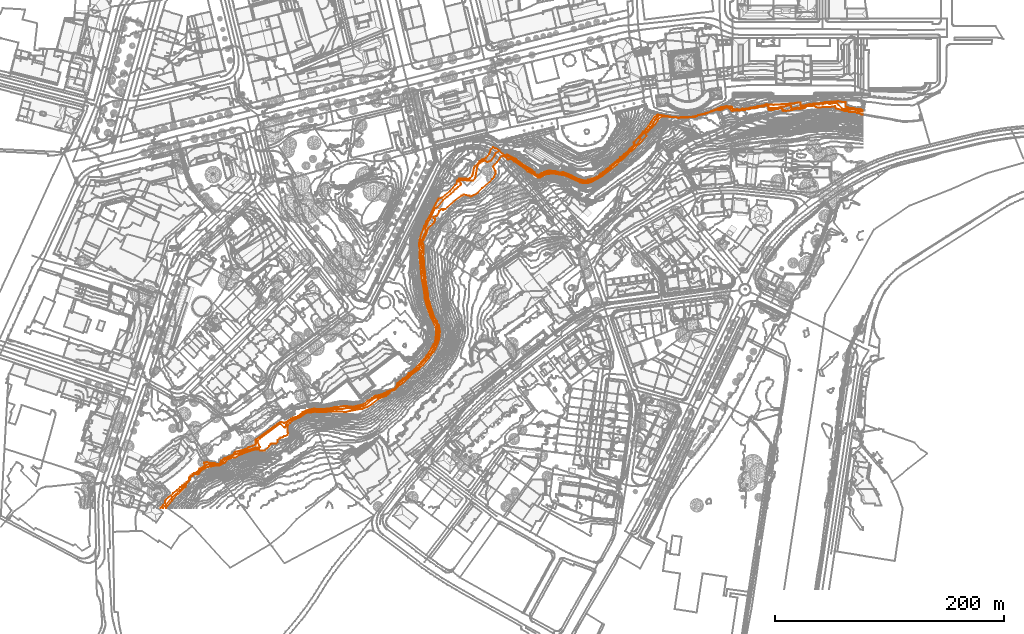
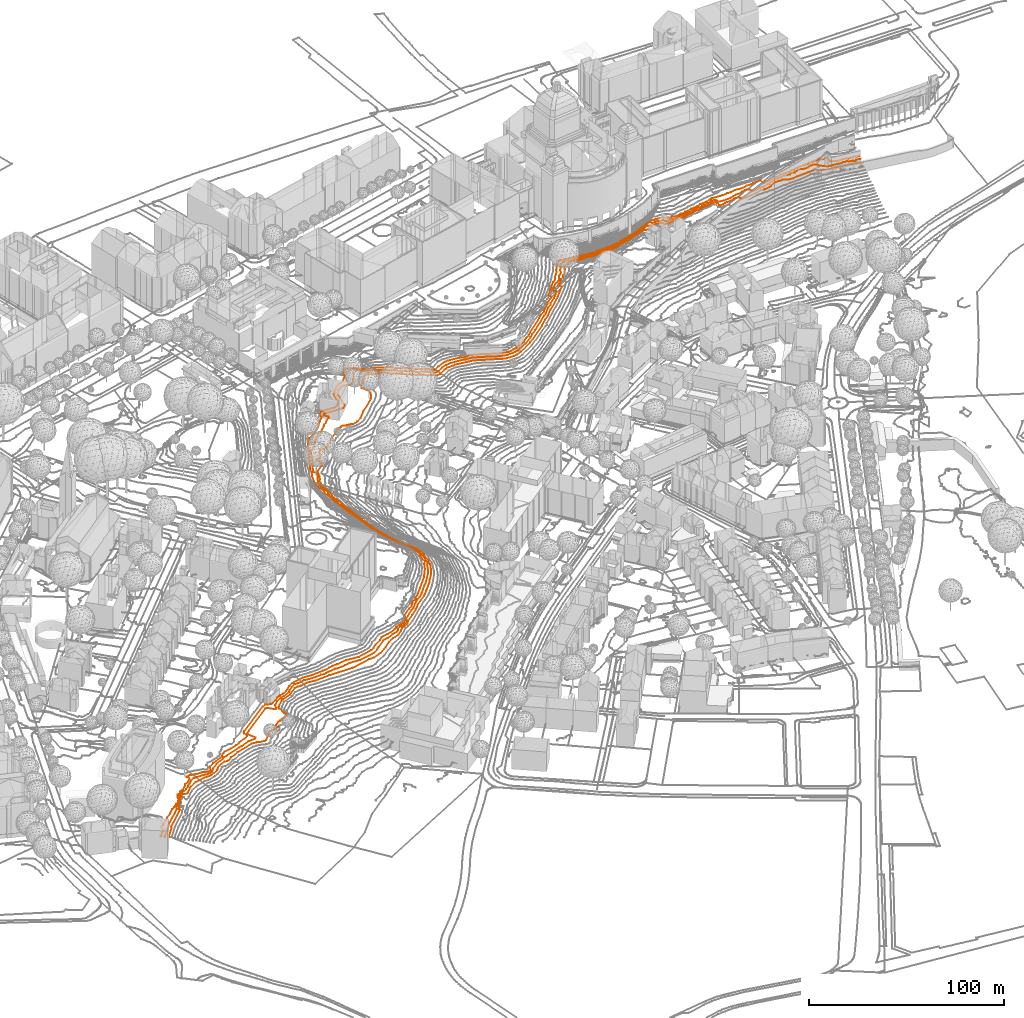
# Not in any storey, part 155 of 477: 3 geographic elements.
"""IFC4 model written with IfcOpenShell, lengths in metres."""

from ifc_helpers import new_model, entity, si_unit, frame, origin_with_axes, place, context, subcontext, project, spatial, element, save


model = new_model("IFC4")

# Units and contexts
model_context = context("Model", 3, precision=1e-05, world=origin_with_axes())
body_context = subcontext(model_context, "Body", "Model", "MODEL_VIEW")
ifc_project = project(units=[si_unit("AREAUNIT", "SQUARE_METRE"), si_unit("LENGTHUNIT", "METRE")], contexts=[model_context])

# Sites
site_1_placement = place(None, origin_with_axes())
site_1 = spatial("IfcSite", under=ifc_project, at=site_1_placement, Name="Topoexport Site")
site_2_placement = place(site_1_placement, origin_with_axes())
site_2 = spatial("IfcSite", under=site_1, at=site_2_placement, Name="TPX_CONTOUR_LINES")

# Geographic elements
geographic_element_1_placement = place(site_2_placement, frame((78.4154227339, -1.3292839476, 524.0), z_axis=(0.0, 0.0, 1.0), x_axis=(1.0, 0.0, 0.0)))
element("IfcGeographicElement", 1, at=geographic_element_1_placement, inside=site_2, Name="Contour Line 524.0 m", PredefinedType="NOTDEFINED", context=body_context, shape_type="GeometricCurveSet", body=[
    entity("IfcGeometricCurveSet", [entity("IfcIndexedPolyCurve", entity("IfcCartesianPointList3D", [[609.7623092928, 344.286234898, 0.0], [608.2623092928, 344.2246892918, 0.0], [607.2623092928, 344.9590182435, 0.0], [606.2623092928, 345.2153256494, 0.0], [604.2623092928, 345.2320320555, 0.0], [603.2623092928, 346.1159915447, 0.0], [597.2623092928, 346.2305726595, 0.0], [596.2623092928, 347.1189957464, 0.0], [593.2623092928, 347.2197717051, 0.0], [588.2623092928, 348.9337588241, 0.0], [586.2623092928, 349.1539193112, 0.0], [585.7941982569, 349.5, 0.0], [585.2623092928, 351.5100186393, 0.0], [581.2623092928, 350.8499732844, 0.0], [574.2623092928, 350.6660930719, 0.0], [571.2623092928, 350.182030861, 0.0], [568.4652279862, 350.5, 0.0], [566.2623092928, 351.8584292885, 0.0], [565.2623092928, 351.6362995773, 0.0], [562.2623092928, 351.7382369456, 0.0], [560.831351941, 351.5, 0.0], [558.2623092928, 349.8761570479, 0.0], [554.2623092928, 348.8389417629, 0.0], [552.2623092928, 349.3170882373, 0.0], [548.2623092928, 348.3243764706, 0.0], [542.2623092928, 347.2999059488, 0.0], [541.2623092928, 347.6364945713, 0.0], [540.2623092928, 347.3253578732, 0.0], [539.1094185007, 347.5, 0.0], [539.6221059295, 348.5, 0.0], [538.4832491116, 349.5, 0.0], [537.2623092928, 349.6359676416, 0.0], [536.2623092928, 349.622808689, 0.0], [535.2623092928, 348.9714051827, 0.0], [531.2623092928, 348.686547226, 0.0], [530.2623092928, 348.2478624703, 0.0], [527.2623092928, 347.8732684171, 0.0], [526.8819181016, 348.5, 0.0], [526.8253004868, 350.5, 0.0], [526.5191205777, 351.5, 0.0], [525.2623092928, 352.0615936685, 0.0], [524.2623092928, 351.9965260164, 0.0], [522.2623092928, 351.0504961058, 0.0], [518.2623092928, 350.8971469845, 0.0], [517.2623092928, 350.0897251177, 0.0], [512.2623092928, 349.8179771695, 0.0], [510.2623092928, 349.02382772, 0.0], [507.2623092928, 348.8493127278, 0.0], [506.2623092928, 348.0187140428, 0.0], [504.2623092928, 348.2498108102, 0.0], [500.2623092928, 347.47563023, 0.0], [499.2623092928, 347.8721327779, 0.0], [495.2623092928, 347.3313546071, 0.0], [494.7106896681, 347.5, 0.0], [492.7927532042, 349.5, 0.0], [490.2623092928, 350.3975586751, 0.0], [488.2623092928, 349.7282287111, 0.0], [486.2623092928, 348.5195976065, 0.0], [483.2623092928, 347.8939881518, 0.0], [482.0299094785, 348.5, 0.0], [472.9488191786, 345.5, 0.0], [471.2623092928, 344.6636973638, 0.0], [465.2623092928, 343.5444147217, 0.0], [463.2623092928, 342.1708480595, 0.0], [462.2623092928, 342.0384574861, 0.0], [455.2623092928, 341.5820647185, 0.0], [450.2623092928, 341.6461551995, 0.0], [448.2623092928, 341.0322651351, 0.0], [446.2623092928, 341.7681370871, 0.0], [440.2623092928, 341.9413952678, 0.0], [438.2623092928, 342.5663771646, 0.0], [433.7172062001, 342.5, 0.0], [430.6928384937, 340.5, 0.0], [429.9822358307, 339.5, 0.0], [429.7702952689, 338.5, 0.0], [427.7572443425, 335.5, 0.0], [426.2623092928, 334.4248206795, 0.0], [425.2623092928, 332.8605003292, 0.0], [423.5167788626, 331.5, 0.0], [421.2623092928, 328.9786450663, 0.0], [420.2298872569, 328.5, 0.0], [419.2163165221, 327.5, 0.0], [420.3571754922, 325.5, 0.0], [413.8694790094, 318.5, 0.0], [407.3866839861, 312.5, 0.0], [405.2623092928, 310.9042367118, 0.0], [401.1246565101, 306.5, 0.0], [398.3581380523, 304.5, 0.0], [394.2623092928, 300.4917527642, 0.0], [381.2623092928, 290.2598956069, 0.0], [373.2623092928, 285.7434564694, 0.0], [370.2623092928, 284.5725746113, 0.0], [368.2623092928, 284.1718397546, 0.0], [364.2623092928, 284.2406321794, 0.0], [362.2623092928, 284.6790883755, 0.0], [348.2623092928, 291.0172442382, 0.0], [338.2623092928, 292.5122809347, 0.0], [333.2623092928, 292.1322010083, 0.0], [331.4035712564, 291.5, 0.0], [327.2623092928, 289.0475717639, 0.0], [325.2623092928, 288.8366134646, 0.0], [320.2623092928, 292.304146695, 0.0], [316.2623092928, 294.3555922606, 0.0], [315.0945172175, 295.5, 0.0], [304.2623092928, 303.2253564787, 0.0], [303.2623092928, 304.428030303, 0.0], [301.2623092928, 305.2754755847, 0.0], [299.2623092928, 304.9019184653, 0.0], [298.2623092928, 305.8404733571, 0.0], [294.2623092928, 307.9958853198, 0.0], [293.2623092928, 307.534414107, 0.0], [292.144146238, 306.5, 0.0], [289.3426781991, 302.5, 0.0], [287.2623092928, 300.5981502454, 0.0], [286.0895200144, 298.5, 0.0], [288.095294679, 294.5, 0.0], [288.062590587, 292.5, 0.0], [286.7513569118, 289.5, 0.0], [285.3136702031, 287.5, 0.0], [276.2623092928, 279.717270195, 0.0], [272.2623092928, 275.3557298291, 0.0], [269.0596733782, 273.5, 0.0], [266.2623092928, 272.5757428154, 0.0], [265.2623092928, 273.1955469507, 0.0], [264.2623092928, 273.1292946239, 0.0], [260.2623092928, 274.2189984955, 0.0], [259.2623092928, 273.4305807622, 0.0], [258.2623092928, 273.1660535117, 0.0], [251.2623092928, 268.0187911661, 0.0], [244.2623092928, 261.5161137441, 0.0], [243.2623092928, 261.2490774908, 0.0], [242.2623092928, 260.5574468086, 0.0], [241.2623092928, 261.5930232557, 0.0], [240.2623092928, 261.1852791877, 0.0], [238.8893846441, 259.5, 0.0], [237.6496746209, 256.5, 0.0], [236.2623092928, 255.2726744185, 0.0], [234.0950807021, 254.5, 0.0], [234.005973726, 253.5, 0.0], [235.3015450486, 252.5, 0.0], [234.8901929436, 250.5, 0.0], [234.3608891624, 249.5, 0.0], [233.2623092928, 248.3679676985, 0.0], [229.6071368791, 245.5, 0.0], [227.8835360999, 240.5, 0.0], [226.8999560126, 238.5, 0.0], [226.0918205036, 237.5, 0.0], [225.6874219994, 235.5, 0.0], [225.1444879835, 234.5, 0.0], [224.1464664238, 233.5, 0.0], [224.1721079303, 232.5, 0.0], [224.6743074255, 231.5, 0.0], [225.1037568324, 229.5, 0.0], [225.2470960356, 224.5, 0.0], [224.896659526, 220.5, 0.0], [225.4292023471, 216.5, 0.0], [225.4488916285, 213.5, 0.0], [225.9258040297, 209.5, 0.0], [226.6952913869, 206.5, 0.0], [226.485033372, 205.5, 0.0], [227.46520198, 196.5, 0.0], [229.0519156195, 187.5, 0.0], [229.3089558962, 184.5, 0.0], [231.776400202, 175.5, 0.0], [234.404866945, 167.5, 0.0], [236.8128137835, 163.5, 0.0], [238.6548700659, 159.5, 0.0], [239.3630201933, 156.5, 0.0], [239.4967098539, 153.5, 0.0], [238.6862559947, 147.5, 0.0], [238.1850400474, 146.5, 0.0], [237.9123802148, 144.5, 0.0], [235.6253359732, 139.5, 0.0], [233.8905698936, 136.5, 0.0], [230.6341337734, 132.5, 0.0], [230.1160708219, 131.5, 0.0], [224.2623092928, 124.7963439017, 0.0], [221.1013234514, 121.5, 0.0], [214.2623092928, 116.2926986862, 0.0], [211.7690846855, 113.5, 0.0], [207.1356077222, 109.5, 0.0], [203.0179999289, 106.5, 0.0], [201.2623092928, 104.3876561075, 0.0], [199.2623092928, 103.1275862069, 0.0], [197.1333651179, 102.5, 0.0], [195.2623092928, 100.4091545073, 0.0], [192.2623092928, 98.0745105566, 0.0], [188.2623092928, 96.6052929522, 0.0], [185.2623092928, 95.1222021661, 0.0], [180.803011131, 91.5, 0.0], [176.2623092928, 88.4166242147, 0.0], [171.2623092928, 86.639983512, 0.0], [168.2623092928, 86.3909774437, 0.0], [157.2623092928, 84.0933787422, 0.0], [143.2623092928, 84.2855392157, 0.0], [135.2623092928, 83.7081762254, 0.0], [130.2623092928, 84.1639274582, 0.0], [128.2623092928, 84.0267768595, 0.0], [126.2623092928, 83.3177425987, 0.0], [124.2623092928, 83.5011194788, 0.0], [122.2623092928, 83.079607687, 0.0], [119.2623092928, 81.0307518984, 0.0], [117.5481930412, 79.5, 0.0], [112.2623092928, 77.5429399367, 0.0], [111.2557037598, 77.5, 0.0], [110.5796282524, 76.5, 0.0], [108.2623092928, 74.4462326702, 0.0], [106.6500695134, 72.5, 0.0], [106.231681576, 71.5, 0.0], [106.3757828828, 66.5, 0.0], [106.6370206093, 65.5, 0.0], [106.2623092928, 63.9261338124, 0.0], [104.2623092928, 62.8281840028, 0.0], [103.2623092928, 62.7194262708, 0.0], [102.2623092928, 62.0470941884, 0.0], [101.2623092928, 61.6104809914, 0.0], [100.2623092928, 61.5477502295, 0.0], [99.2623092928, 60.9414054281, 0.0], [97.5867945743, 59.5, 0.0], [97.4792633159, 57.5, 0.0], [96.0837285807, 56.5, 0.0], [94.2623092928, 56.1793589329, 0.0], [92.2623092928, 56.210252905, 0.0], [91.2623092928, 55.786011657, 0.0], [90.2623092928, 54.1409272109, 0.0], [86.2623092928, 50.3269175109, 0.0], [85.2623092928, 50.0317890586, 0.0], [82.2623092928, 50.3704271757, 0.0], [81.2623092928, 50.8967727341, 0.0], [78.2623092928, 51.2724746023, 0.0], [68.2623092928, 48.1492609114, 0.0], [66.2623092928, 47.1200797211, 0.0], [63.2623092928, 46.1136777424, 0.0], [60.2623092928, 43.9315222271, 0.0], [58.2623092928, 44.2748974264, 0.0], [54.2623092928, 42.6318339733, 0.0], [52.7703239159, 41.5, 0.0], [51.2189817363, 39.5, 0.0], [46.2623092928, 37.1201030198, 0.0], [42.2623092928, 36.9356598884, 0.0], [36.2623092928, 35.7952901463, 0.0], [31.8884867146, 33.5, 0.0], [28.2623092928, 29.8065465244, 0.0], [27.2623092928, 29.1449858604, 0.0], [25.2623092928, 29.648149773, 0.0], [24.2623092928, 29.478113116, 0.0], [23.2623092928, 27.8675794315, 0.0], [22.2623092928, 27.7312639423, 0.0], [20.8159687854, 26.5, 0.0], [21.0347752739, 25.5, 0.0], [20.7428646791, 24.5, 0.0], [17.880752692, 21.5, 0.0], [17.2623092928, 19.9695467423, 0.0], [16.4527854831, 19.5, 0.0], [16.9586136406, 18.5, 0.0], [5.4930572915, 7.5, 0.0], [5.0825772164, 6.5, 0.0], [0.0, 0.5, 0.0], [0.0, 0.0, 0.0]]))]),
])
geographic_element_2_placement = place(site_2_placement, frame((75.79612733, -1.3292839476, 525.0), z_axis=(0.0, 0.0, 1.0), x_axis=(1.0, 0.0, 0.0)))
element("IfcGeographicElement", 2, at=geographic_element_2_placement, inside=site_2, Name="Contour Line 525.0 m", PredefinedType="NOTDEFINED", context=body_context, shape_type="GeometricCurveSet", body=[
    entity("IfcGeometricCurveSet", [entity("IfcIndexedPolyCurve", entity("IfcCartesianPointList3D", [[612.3816046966, 346.7179725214, 0.0], [609.8816046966, 347.1567020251, 0.0], [608.8816046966, 346.2446102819, 0.0], [607.8816046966, 347.1822240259, 0.0], [606.8816046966, 347.5928980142, 0.0], [605.8816046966, 347.6337167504, 0.0], [605.0436352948, 348.5, 0.0], [603.8816046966, 348.360346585, 0.0], [602.8816046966, 348.599430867, 0.0], [601.8816046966, 348.2894736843, 0.0], [596.8816046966, 349.0688267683, 0.0], [594.8816046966, 349.0125531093, 0.0], [593.6798073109, 349.5, 0.0], [590.8816046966, 352.225222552, 0.0], [589.8816046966, 353.7900569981, 0.0], [588.8816046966, 354.337363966, 0.0], [586.8816046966, 354.3158205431, 0.0], [584.8816046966, 353.65619495, 0.0], [582.8816046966, 353.4170199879, 0.0], [579.8816046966, 354.4545454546, 0.0], [578.8816046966, 353.9094397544, 0.0], [577.8816046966, 353.7904578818, 0.0], [576.8816046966, 352.984646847, 0.0], [575.8816046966, 353.6829672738, 0.0], [574.8816046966, 353.5650453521, 0.0], [573.8816046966, 352.7297290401, 0.0], [571.8816046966, 353.1314463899, 0.0], [568.8816046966, 352.9989817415, 0.0], [566.8816046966, 352.5793067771, 0.0], [565.8816046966, 352.7375726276, 0.0], [563.8816046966, 352.3460930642, 0.0], [561.8816046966, 351.6565673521, 0.0], [560.8816046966, 350.9671823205, 0.0], [559.8816046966, 350.6571177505, 0.0], [558.8816046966, 350.7443527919, 0.0], [556.8816046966, 349.8599786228, 0.0], [554.8816046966, 350.0662605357, 0.0], [550.8816046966, 349.3119104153, 0.0], [549.589667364, 349.5, 0.0], [549.2425826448, 351.5, 0.0], [547.8816046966, 352.034733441, 0.0], [546.8816046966, 352.1368165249, 0.0], [544.8816046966, 351.7608317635, 0.0], [543.8816046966, 351.0940118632, 0.0], [540.8816046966, 350.9335769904, 0.0], [536.8816046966, 349.8739313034, 0.0], [532.8816046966, 349.5848375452, 0.0], [529.8816046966, 349.9569934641, 0.0], [529.6847860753, 351.5, 0.0], [528.8816046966, 352.3192734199, 0.0], [527.8816046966, 352.4642874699, 0.0], [526.8816046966, 352.3579085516, 0.0], [524.8816046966, 351.4000960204, 0.0], [520.8816046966, 351.1929938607, 0.0], [519.8816046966, 350.4585762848, 0.0], [514.8816046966, 350.1083912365, 0.0], [513.8816046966, 349.9335118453, 0.0], [512.8816046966, 349.3219517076, 0.0], [509.8816046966, 349.160369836, 0.0], [508.8816046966, 348.2864964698, 0.0], [507.8816046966, 348.2802880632, 0.0], [506.8816046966, 348.6748267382, 0.0], [502.8816046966, 347.8958253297, 0.0], [501.8816046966, 348.3813638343, 0.0], [498.8816046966, 348.0792918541, 0.0], [497.8816046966, 348.4895052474, 0.0], [495.8816046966, 350.3601375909, 0.0], [494.8816046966, 350.325022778, 0.0], [492.8816046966, 350.9359848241, 0.0], [490.8816046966, 350.2551131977, 0.0], [488.8816046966, 349.1775631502, 0.0], [485.8596304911, 349.5, 0.0], [484.8816046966, 348.7240202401, 0.0], [480.8187264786, 347.5, 0.0], [479.8816046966, 346.8810173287, 0.0], [475.0651058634, 345.5, 0.0], [473.8816046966, 344.8643120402, 0.0], [467.8816046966, 343.6110225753, 0.0], [466.8816046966, 342.8026546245, 0.0], [465.8816046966, 342.4427049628, 0.0], [460.8816046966, 341.8638169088, 0.0], [452.8816046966, 341.7200605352, 0.0], [450.8816046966, 341.1788426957, 0.0], [448.8816046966, 341.850566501, 0.0], [442.8816046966, 342.1452118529, 0.0], [440.8816046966, 342.6546501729, 0.0], [436.8816046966, 342.9020283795, 0.0], [435.8816046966, 343.5175342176, 0.0], [434.2378455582, 343.5, 0.0], [431.5565774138, 341.5, 0.0], [430.4901968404, 339.5, 0.0], [428.8883011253, 337.5, 0.0], [428.2351064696, 335.5, 0.0], [425.8816046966, 333.1867298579, 0.0], [424.2211966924, 330.5, 0.0], [422.8816046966, 329.1856492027, 0.0], [420.8816046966, 328.4738955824, 0.0], [418.0253257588, 325.5, 0.0], [416.7468386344, 323.5, 0.0], [417.7904716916, 322.5, 0.0], [415.6557491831, 319.5, 0.0], [413.7064739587, 317.5, 0.0], [410.0619289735, 314.5, 0.0], [409.5117984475, 313.5, 0.0], [406.8816046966, 311.7644092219, 0.0], [402.8816046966, 307.3364220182, 0.0], [401.5241714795, 306.5, 0.0], [391.1040560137, 297.5, 0.0], [387.8816046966, 295.1910299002, 0.0], [385.8816046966, 293.1412662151, 0.0], [380.8816046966, 289.6742744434, 0.0], [374.8816046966, 286.7301003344, 0.0], [372.8816046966, 285.9727371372, 0.0], [370.8816046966, 285.6380133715, 0.0], [367.8816046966, 285.4065623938, 0.0], [365.8816046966, 285.7649805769, 0.0], [361.8816046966, 287.1743840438, 0.0], [355.8816046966, 290.2063233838, 0.0], [350.8816046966, 292.3000151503, 0.0], [349.8816046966, 292.5715016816, 0.0], [346.8816046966, 292.654480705, 0.0], [344.8816046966, 293.231486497, 0.0], [338.8816046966, 293.718405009, 0.0], [335.8816046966, 293.4547963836, 0.0], [332.8816046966, 292.3970027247, 0.0], [329.8816046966, 290.624005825, 0.0], [327.8816046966, 290.3005309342, 0.0], [326.8816046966, 290.6452823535, 0.0], [325.5577244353, 291.5, 0.0], [324.8816046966, 292.4461417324, 0.0], [322.8816046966, 294.0178540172, 0.0], [319.8816046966, 295.4385756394, 0.0], [305.8816046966, 305.4798420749, 0.0], [303.7110723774, 306.5, 0.0], [302.6567064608, 307.5, 0.0], [301.8816046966, 307.9714985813, 0.0], [300.8816046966, 307.8837125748, 0.0], [299.8816046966, 307.269882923, 0.0], [298.8816046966, 307.6814823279, 0.0], [293.8816046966, 312.4137168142, 0.0], [290.8816046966, 310.47414966, 0.0], [289.8816046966, 308.3325581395, 0.0], [286.8816046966, 303.8805946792, 0.0], [283.8816046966, 302.6608433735, 0.0], [280.8816046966, 303.7578401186, 0.0], [278.8816046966, 303.0853249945, 0.0], [277.8816046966, 302.2479183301, 0.0], [276.8816046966, 301.8775277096, 0.0], [275.2120833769, 299.5, 0.0], [274.534831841, 297.5, 0.0], [273.0784650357, 288.5, 0.0], [271.0586287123, 286.5, 0.0], [269.8816046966, 286.3034408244, 0.0], [260.8816046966, 286.8704288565, 0.0], [259.8816046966, 286.8341733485, 0.0], [259.2556570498, 286.5, 0.0], [258.9581526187, 285.5, 0.0], [260.1505037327, 284.5, 0.0], [260.4122169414, 283.5, 0.0], [260.2745141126, 282.5, 0.0], [257.8816046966, 280.9248625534, 0.0], [256.8598699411, 279.5, 0.0], [255.1104089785, 278.5, 0.0], [253.8816046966, 276.9047741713, 0.0], [251.8816046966, 275.0872536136, 0.0], [248.8812785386, 272.5, 0.0], [247.8816046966, 272.0164852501, 0.0], [244.8816046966, 269.2654343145, 0.0], [239.8816046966, 263.1109101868, 0.0], [237.8816046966, 262.1509375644, 0.0], [236.8816046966, 260.4933744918, 0.0], [233.320617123, 252.5, 0.0], [231.9227827, 250.5, 0.0], [229.8816046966, 246.3727598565, 0.0], [229.3213042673, 244.5, 0.0], [229.7890665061, 242.5, 0.0], [229.7086373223, 241.5, 0.0], [226.1845286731, 234.5, 0.0], [225.4967443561, 232.5, 0.0], [225.8656243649, 230.5, 0.0], [225.7224455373, 229.5, 0.0], [226.8595382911, 226.5, 0.0], [225.7938928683, 222.5, 0.0], [225.9673160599, 218.5, 0.0], [226.5623927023, 215.5, 0.0], [226.5116518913, 212.5, 0.0], [226.7373296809, 210.5, 0.0], [227.1392637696, 209.5, 0.0], [227.387485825, 205.5, 0.0], [228.0688725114, 202.5, 0.0], [228.0878234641, 199.5, 0.0], [228.7541993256, 194.5, 0.0], [231.0261614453, 181.5, 0.0], [232.7233990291, 175.5, 0.0], [235.4543288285, 167.5, 0.0], [239.644271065, 159.5, 0.0], [240.2784300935, 157.5, 0.0], [240.4051384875, 152.5, 0.0], [239.2020076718, 144.5, 0.0], [238.2001691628, 143.5, 0.0], [236.4153362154, 139.5, 0.0], [234.6402658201, 136.5, 0.0], [229.1137218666, 129.5, 0.0], [227.9211995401, 128.5, 0.0], [222.6516945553, 122.5, 0.0], [220.4456453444, 120.5, 0.0], [218.5811190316, 119.5, 0.0], [216.8816046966, 117.7670478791, 0.0], [215.1192014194, 116.5, 0.0], [214.5640841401, 115.5, 0.0], [212.7185134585, 113.5, 0.0], [210.8816046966, 112.4349762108, 0.0], [204.8816046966, 107.4248925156, 0.0], [204.1698711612, 105.5, 0.0], [203.3282995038, 104.5, 0.0], [200.8816046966, 103.194603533, 0.0], [198.3470725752, 102.5, 0.0], [196.8198069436, 101.5, 0.0], [196.1903216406, 100.5, 0.0], [194.8816046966, 99.3866535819, 0.0], [191.8816046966, 98.6586565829, 0.0], [187.8816046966, 96.861, 0.0], [185.8816046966, 96.6540028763, 0.0], [184.8816046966, 96.1670382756, 0.0], [179.8816046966, 92.4248329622, 0.0], [178.0034212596, 90.5, 0.0], [174.8816046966, 88.8734977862, 0.0], [165.8816046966, 86.9967465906, 0.0], [159.8816046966, 87.3800688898, 0.0], [156.8816046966, 86.7143317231, 0.0], [151.8816046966, 86.3038570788, 0.0], [150.8816046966, 86.5176783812, 0.0], [146.8816046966, 86.0144848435, 0.0], [144.8816046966, 85.6828833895, 0.0], [143.8816046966, 85.2035420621, 0.0], [141.8816046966, 85.500962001, 0.0], [137.8816046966, 85.1321648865, 0.0], [131.8816046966, 85.5606446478, 0.0], [127.8816046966, 84.9168553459, 0.0], [125.8816046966, 84.9056422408, 0.0], [123.3559607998, 83.5, 0.0], [120.8816046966, 81.6511181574, 0.0], [119.8816046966, 80.4513452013, 0.0], [115.8816046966, 78.5572618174, 0.0], [113.8816046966, 78.2580667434, 0.0], [110.7272224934, 76.5, 0.0], [107.8816046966, 73.7554210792, 0.0], [106.8816046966, 70.5714285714, 0.0], [105.8816046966, 70.6662539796, 0.0], [102.8816046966, 73.8481121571, 0.0], [101.8816046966, 73.5613590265, 0.0], [84.8816046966, 60.9065238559, 0.0], [82.8816046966, 59.0964784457, 0.0], [82.3815028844, 58.5, 0.0], [84.7392916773, 53.5, 0.0], [83.8816046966, 52.9806039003, 0.0], [79.8816046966, 52.6142993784, 0.0], [74.8816046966, 50.6714764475, 0.0], [72.8816046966, 50.3076294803, 0.0], [63.8816046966, 47.1063145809, 0.0], [61.8816046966, 46.6350690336, 0.0], [60.8816046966, 45.740326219, 0.0], [55.8552512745, 43.5, 0.0], [51.8778103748, 40.5, 0.0], [50.2676946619, 38.5, 0.0], [48.8816046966, 37.7764343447, 0.0], [45.8816046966, 37.764435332, 0.0], [44.8816046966, 38.1518749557, 0.0], [38.8816046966, 38.0817070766, 0.0], [36.8816046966, 36.8897088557, 0.0], [34.8816046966, 35.0553488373, 0.0], [33.8514517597, 34.5, 0.0], [32.8816046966, 33.2526692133, 0.0], [30.8816046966, 31.6866066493, 0.0], [27.8816046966, 30.0075347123, 0.0], [26.8816046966, 29.9303642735, 0.0], [26.4112068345, 29.5, 0.0], [25.8816046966, 28.2100543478, 0.0], [24.8816046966, 28.1200816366, 0.0], [23.1677178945, 26.5, 0.0], [23.2861719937, 25.5, 0.0], [23.0290910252, 24.5, 0.0], [19.8816046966, 20.9214010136, 0.0], [18.8816046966, 20.7899780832, 0.0], [18.5744286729, 20.5, 0.0], [17.5714011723, 18.5, 0.0], [14.8816046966, 15.7075725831, 0.0], [7.8816046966, 9.3960275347, 0.0], [2.3815396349, 2.5, 0.0], [0.0, 0.5, 0.0], [0.0, 0.0, 0.0]]))]),
])
geographic_element_3_placement = place(site_2_placement, frame((73.4212159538, -1.3292839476, 526.0), z_axis=(0.0, 0.0, 1.0), x_axis=(1.0, 0.0, 0.0)))
element("IfcGeographicElement", 3, at=geographic_element_3_placement, inside=site_2, Name="Contour Line 526.0 m", PredefinedType="NOTDEFINED", context=body_context, shape_type="GeometricCurveSet", body=[
    entity("IfcGeometricCurveSet", [entity("IfcIndexedPolyCurve", entity("IfcCartesianPointList3D", [[614.7565160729, 347.8569232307, 0.0], [612.2565160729, 348.7136577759, 0.0], [608.2565160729, 348.852311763, 0.0], [607.2565160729, 349.5134271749, 0.0], [606.2565160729, 349.7074715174, 0.0], [602.2565160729, 349.8367801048, 0.0], [601.2353678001, 350.5, 0.0], [600.2565160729, 350.706886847, 0.0], [599.4602524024, 351.5, 0.0], [599.2565160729, 355.0146289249, 0.0], [596.2565160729, 354.9451594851, 0.0], [594.840072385, 355.5, 0.0], [592.2565160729, 355.8273386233, 0.0], [591.2565160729, 355.5445464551, 0.0], [589.2565160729, 355.5665142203, 0.0], [588.2565160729, 355.1778480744, 0.0], [587.2565160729, 355.4028692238, 0.0], [586.2565160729, 354.9722742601, 0.0], [581.2565160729, 354.8888263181, 0.0], [580.0059349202, 354.5, 0.0], [579.2565160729, 353.8871313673, 0.0], [578.2565160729, 354.1955759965, 0.0], [577.2565160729, 354.0637365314, 0.0], [576.2565160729, 353.5452026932, 0.0], [575.2565160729, 353.8208972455, 0.0], [573.2565160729, 353.7353539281, 0.0], [571.2565160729, 353.5915227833, 0.0], [569.2565160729, 353.0031039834, 0.0], [568.2565160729, 353.2183520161, 0.0], [566.2565160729, 353.008068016, 0.0], [562.2565160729, 351.7885226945, 0.0], [561.2565160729, 352.1391944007, 0.0], [560.2565160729, 351.4409140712, 0.0], [559.9187084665, 351.5, 0.0], [559.9560651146, 354.5, 0.0], [559.2565160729, 354.6198802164, 0.0], [555.2565160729, 354.3403611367, 0.0], [554.2565160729, 353.8691267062, 0.0], [551.2565160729, 353.8189998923, 0.0], [547.2565160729, 353.0951670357, 0.0], [546.2565160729, 353.4390107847, 0.0], [544.2565160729, 353.433971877, 0.0], [541.2565160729, 352.8260906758, 0.0], [539.2565160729, 353.0453543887, 0.0], [536.2565160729, 352.6305925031, 0.0], [530.2565160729, 353.0899016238, 0.0], [529.2565160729, 352.9765374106, 0.0], [526.2565160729, 351.8173494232, 0.0], [522.2565160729, 351.3950153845, 0.0], [520.2565160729, 350.6474248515, 0.0], [516.2565160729, 350.3053008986, 0.0], [514.2565160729, 349.5805324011, 0.0], [512.2565160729, 349.471426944, 0.0], [511.2565160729, 348.9057917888, 0.0], [510.2565160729, 348.7753130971, 0.0], [509.2565160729, 349.1980933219, 0.0], [507.2166250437, 348.5, 0.0], [505.2565160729, 348.3154437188, 0.0], [504.2565160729, 348.9289517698, 0.0], [502.2565160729, 348.5580284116, 0.0], [501.2565160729, 349.0722010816, 0.0], [500.1635952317, 350.5, 0.0], [499.2565160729, 351.1915974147, 0.0], [497.2565160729, 351.0806035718, 0.0], [495.2565160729, 351.4627676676, 0.0], [493.2565160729, 351.1429356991, 0.0], [492.2565160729, 350.5600096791, 0.0], [490.2166336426, 350.5, 0.0], [489.2565160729, 349.8041466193, 0.0], [487.975902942, 349.5, 0.0], [487.2565160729, 348.9292280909, 0.0], [485.5936555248, 348.5, 0.0], [482.2565160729, 347.0101859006, 0.0], [476.2565160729, 345.0649267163, 0.0], [470.2565160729, 343.6776304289, 0.0], [469.2565160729, 342.9097283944, 0.0], [468.2565160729, 342.5947548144, 0.0], [463.2565160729, 341.9674429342, 0.0], [455.2565160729, 341.7939658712, 0.0], [453.2565160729, 341.3254202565, 0.0], [451.2565160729, 341.9329959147, 0.0], [447.2565160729, 342.0420208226, 0.0], [435.2565160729, 343.9805767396, 0.0], [434.2565160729, 343.6656115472, 0.0], [432.2565160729, 342.2528641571, 0.0], [429.0287707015, 337.5, 0.0], [428.2565160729, 335.6267402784, 0.0], [427.0379219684, 334.5, 0.0], [424.7400214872, 331.5, 0.0], [424.2565160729, 330.4855072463, 0.0], [422.2565160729, 329.0993829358, 0.0], [414.7327590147, 320.5, 0.0], [414.0376470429, 319.5, 0.0], [414.7480414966, 318.5, 0.0], [414.3488824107, 317.5, 0.0], [410.6145519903, 314.5, 0.0], [409.9487183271, 313.5, 0.0], [405.7058413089, 309.5, 0.0], [405.1201079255, 308.5, 0.0], [402.2565160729, 306.7328533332, 0.0], [399.9155193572, 304.5, 0.0], [390.0826110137, 296.5, 0.0], [387.2565160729, 293.7458738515, 0.0], [385.0166706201, 292.5, 0.0], [382.2565160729, 290.0358998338, 0.0], [378.2565160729, 288.0273528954, 0.0], [377.2565160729, 288.2970709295, 0.0], [376.2565160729, 287.2927296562, 0.0], [374.2565160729, 287.0490818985, 0.0], [373.2565160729, 286.5195087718, 0.0], [371.2565160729, 286.1974444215, 0.0], [365.2565160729, 287.8552348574, 0.0], [358.2565160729, 291.4014665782, 0.0], [352.2565160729, 293.8337863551, 0.0], [349.2565160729, 293.3137700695, 0.0], [346.2565160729, 294.4730041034, 0.0], [340.2565160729, 295.0899935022, 0.0], [338.2565160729, 294.89758227, 0.0], [333.2565160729, 292.9688251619, 0.0], [330.2565160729, 291.1727156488, 0.0], [329.2565160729, 291.4706312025, 0.0], [327.2565160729, 293.7050048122, 0.0], [325.2565160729, 295.3606362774, 0.0], [324.2565160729, 295.7550913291, 0.0], [323.7185327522, 296.5, 0.0], [314.0198498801, 302.5, 0.0], [311.2565160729, 305.1385231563, 0.0], [307.2565160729, 306.9164002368, 0.0], [304.2565160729, 308.8248148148, 0.0], [303.2565160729, 309.0755108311, 0.0], [301.2565160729, 308.305492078, 0.0], [299.2565160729, 309.8028532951, 0.0], [296.710485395, 312.5, 0.0], [293.5683070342, 314.5, 0.0], [292.2565160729, 314.6875693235, 0.0], [291.0402523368, 315.5, 0.0], [288.9996596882, 313.5, 0.0], [287.4514369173, 309.5, 0.0], [284.9562405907, 306.5, 0.0], [284.2565160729, 305.7917202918, 0.0], [281.2565160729, 304.9262092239, 0.0], [279.2565160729, 303.4584837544, 0.0], [274.6442955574, 298.5, 0.0], [274.1911435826, 297.5, 0.0], [273.2565160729, 291.4761904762, 0.0], [272.7245540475, 290.5, 0.0], [270.8249736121, 288.5, 0.0], [269.2565160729, 287.9021328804, 0.0], [262.2565160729, 288.0986878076, 0.0], [261.2565160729, 288.3376191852, 0.0], [259.6021478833, 286.5, 0.0], [258.8917130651, 283.5, 0.0], [257.6843252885, 282.5, 0.0], [253.2565160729, 277.2630424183, 0.0], [246.2565160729, 271.5141664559, 0.0], [244.2565160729, 270.706103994, 0.0], [243.2565160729, 270.5994133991, 0.0], [243.0031827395, 269.5, 0.0], [242.2565160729, 268.8336424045, 0.0], [240.9178740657, 266.5, 0.0], [236.5487445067, 257.5, 0.0], [232.5785805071, 250.5, 0.0], [231.8886672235, 248.5, 0.0], [230.7025016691, 246.5, 0.0], [229.9200497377, 243.5, 0.0], [228.4205078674, 240.5, 0.0], [226.5531875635, 234.5, 0.0], [226.3178991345, 229.5, 0.0], [227.0377080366, 225.5, 0.0], [226.5930748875, 224.5, 0.0], [226.481047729, 222.5, 0.0], [228.3512367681, 202.5, 0.0], [230.7200252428, 188.5, 0.0], [231.2565160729, 183.7022352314, 0.0], [232.7508259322, 177.5, 0.0], [236.6200957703, 166.5, 0.0], [237.9502307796, 164.5, 0.0], [240.7263554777, 158.5, 0.0], [241.2302962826, 155.5, 0.0], [241.2674348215, 152.5, 0.0], [240.4928297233, 148.5, 0.0], [240.4346280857, 145.5, 0.0], [238.8375483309, 143.5, 0.0], [236.9181871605, 139.5, 0.0], [232.9388892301, 133.5, 0.0], [222.2565160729, 121.7063157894, 0.0], [219.732324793, 119.5, 0.0], [219.2565160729, 118.4662029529, 0.0], [217.2565160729, 117.9904978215, 0.0], [214.2565160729, 113.986719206, 0.0], [212.2565160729, 113.1227126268, 0.0], [207.2565160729, 109.2346818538, 0.0], [206.5003445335, 106.5, 0.0], [206.0089932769, 105.5, 0.0], [205.0581442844, 104.5, 0.0], [203.2565160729, 103.6134511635, 0.0], [198.2565160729, 101.945486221, 0.0], [197.2565160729, 100.9503388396, 0.0], [196.2565160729, 100.488548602, 0.0], [191.2565160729, 98.7549461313, 0.0], [187.2565160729, 98.088251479, 0.0], [185.2565160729, 96.1876231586, 0.0], [181.2565160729, 93.8568231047, 0.0], [178.6589531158, 91.5, 0.0], [176.8177964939, 90.5, 0.0], [168.2565160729, 88.4759156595, 0.0], [161.2565160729, 89.2111134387, 0.0], [155.2565160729, 88.3372217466, 0.0], [152.2565160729, 88.3100876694, 0.0], [150.2565160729, 87.6044651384, 0.0], [146.2565160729, 86.8752787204, 0.0], [139.2565160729, 86.3538109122, 0.0], [134.2565160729, 86.862621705, 0.0], [127.2565160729, 85.3529587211, 0.0], [124.2565160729, 83.8312481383, 0.0], [120.4859374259, 80.5, 0.0], [118.2565160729, 79.359808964, 0.0], [116.2565160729, 79.1020993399, 0.0], [115.2565160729, 78.3673668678, 0.0], [114.2565160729, 78.132781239, 0.0], [109.2565160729, 74.7110714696, 0.0], [108.2565160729, 74.433639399, 0.0], [105.2565160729, 75.3542221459, 0.0], [103.2078966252, 74.5, 0.0], [84.2565160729, 60.4290098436, 0.0], [83.417131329, 59.5, 0.0], [83.1465299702, 58.5, 0.0], [83.5278976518, 56.5, 0.0], [83.2565160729, 55.663498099, 0.0], [81.07034586, 54.5, 0.0], [77.2565160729, 53.2028169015, 0.0], [76.2565160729, 52.2837150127, 0.0], [74.2269850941, 51.5, 0.0], [70.2565160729, 50.2433696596, 0.0], [66.2565160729, 49.3693045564, 0.0], [65.2565160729, 48.8665961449, 0.0], [64.2565160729, 48.155343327, 0.0], [62.9908629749, 46.5, 0.0], [56.0412818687, 43.5, 0.0], [53.2565160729, 41.6169388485, 0.0], [51.5921653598, 38.5, 0.0], [51.2565160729, 38.3191665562, 0.0], [49.2565160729, 38.3866703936, 0.0], [47.2565160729, 39.2393826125, 0.0], [43.2565160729, 39.4044130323, 0.0], [40.2565160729, 40.1893955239, 0.0], [38.2565160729, 39.6917662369, 0.0], [37.9852190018, 39.5, 0.0], [38.6467895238, 38.5, 0.0], [38.6247153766, 37.5, 0.0], [36.6341587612, 35.5, 0.0], [34.2565160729, 34.520675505, 0.0], [33.7638838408, 33.5, 0.0], [30.4724158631, 30.5, 0.0], [29.2565160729, 30.3754244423, 0.0], [28.299657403, 29.5, 0.0], [28.2565160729, 29.1336359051, 0.0], [26.2565160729, 28.1598006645, 0.0], [25.2750829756, 26.5, 0.0], [25.2565160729, 25.3482624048, 0.0], [23.0256878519, 22.5, 0.0], [21.8253379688, 21.5, 0.0], [21.2565160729, 21.4428571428, 0.0], [19.1314801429, 19.5, 0.0], [17.2565160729, 18.2708962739, 0.0], [14.4224407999, 15.5, 0.0], [11.2565160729, 13.1852928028, 0.0], [9.2565160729, 11.0214260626, 0.0], [6.9796848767, 9.5, 0.0], [4.7770270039, 7.5, 0.0], [4.084754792, 6.5, 0.0], [4.3025828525, 4.5, 0.0], [2.1273037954, 2.5, 0.0], [1.2565160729, 1.2646064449, 0.0], [0.0, 0.5, 0.0], [0.0, 0.0, 0.0]]))]),
])

save(model, "model.ifc")
